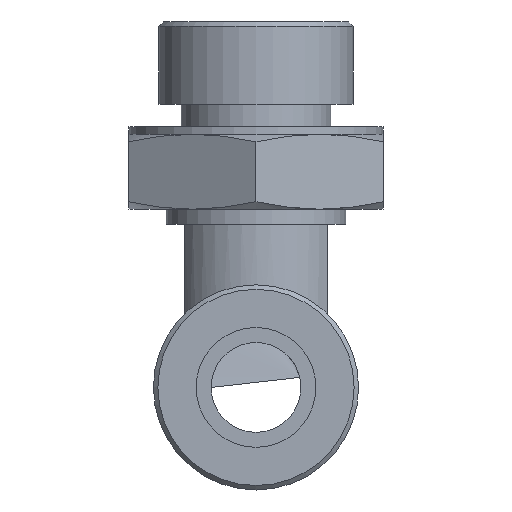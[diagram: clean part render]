
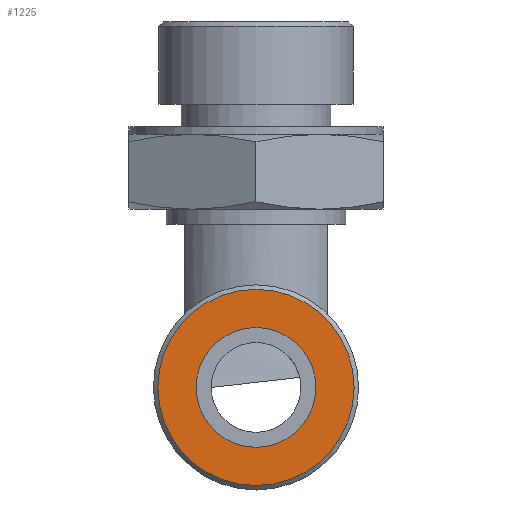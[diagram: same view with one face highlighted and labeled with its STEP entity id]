
A CAD part, front view. The second image highlights one B-rep face of the part: STEP entity #1225.
In plain terms, the highlighted planar face has unit normal (0, -1, 0).
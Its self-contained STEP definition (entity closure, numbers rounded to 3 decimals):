
#85=FACE_BOUND('',#280,.T.);
#114=PLANE('',#1446);
#189=FACE_OUTER_BOUND('',#279,.T.);
#279=EDGE_LOOP('',(#1049));
#280=EDGE_LOOP('',(#1050));
#436=CIRCLE('',#1350,4.);
#479=CIRCLE('',#1443,6.55);
#526=VERTEX_POINT('',#1977);
#591=VERTEX_POINT('',#2245);
#642=EDGE_CURVE('',#526,#526,#436,.T.);
#750=EDGE_CURVE('',#591,#591,#479,.T.);
#1049=ORIENTED_EDGE('',*,*,#750,.F.);
#1050=ORIENTED_EDGE('',*,*,#642,.T.);
#1225=ADVANCED_FACE('',(#189,#85),#114,.F.);
#1350=AXIS2_PLACEMENT_3D('',#1978,#1571,#1572);
#1443=AXIS2_PLACEMENT_3D('',#2247,#1796,#1797);
#1446=AXIS2_PLACEMENT_3D('',#2252,#1803,#1804);
#1571=DIRECTION('center_axis',(0.,1.,0.));
#1572=DIRECTION('ref_axis',(1.,0.,0.));
#1796=DIRECTION('center_axis',(0.,1.,0.));
#1797=DIRECTION('ref_axis',(-1.,0.,0.));
#1803=DIRECTION('center_axis',(0.,1.,0.));
#1804=DIRECTION('ref_axis',(0.,0.,1.));
#1977=CARTESIAN_POINT('',(-4.,-22.,0.));
#1978=CARTESIAN_POINT('Origin',(0.,-22.,0.));
#2245=CARTESIAN_POINT('',(6.55,-22.,0.));
#2247=CARTESIAN_POINT('Origin',(0.,-22.,0.));
#2252=CARTESIAN_POINT('Origin',(0.,-22.,0.));
